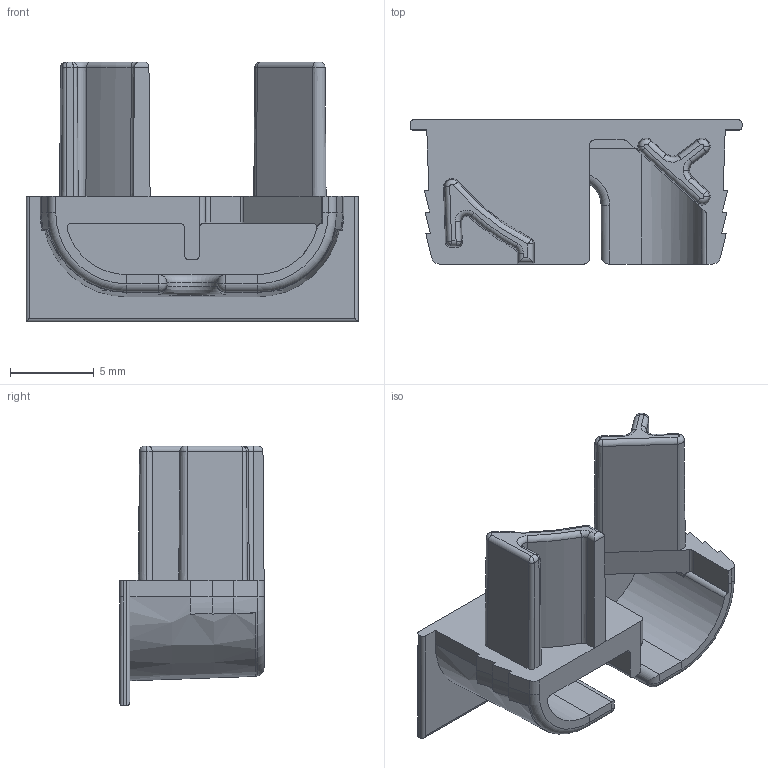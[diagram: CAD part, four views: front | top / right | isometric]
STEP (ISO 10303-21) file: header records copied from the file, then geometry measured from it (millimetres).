
FILE_DESCRIPTION (( 'STEP AP203' ), '1' );
FILE_NAME ('Endkappen_ChannelLine_S2_R_24.STEP', '2024-11-29T08:19:43', ( '' ), ( '' ), 'SwSTEP 2.0', 'SolidWorks 2023', '' );
FILE_SCHEMA (( 'CONFIG_CONTROL_DESIGN' ));
Length unit declared in the file: millimetre
Products named in the file (1): Endkappen_ChannelLine_S2_R_24
Bounding box: 19.8 x 8.6 x 15.5 mm (x, y, z)
Volume: 608.8 mm3; surface area: 1105.1 mm2
Topology: 1 solids, 1 shells, 164 faces, 405 edges, 238 vertices
Faces by surface type: plane 69, cylinder 45, cone 25, torus 19, bspline 4, sphere 2
Entity records: 5814 total; most frequent: CARTESIAN_POINT 1888, DIRECTION 833, ORIENTED_EDGE 800, EDGE_CURVE 400, AXIS2_PLACEMENT_3D 299, VERTEX_POINT 238, LINE 235, VECTOR 235
